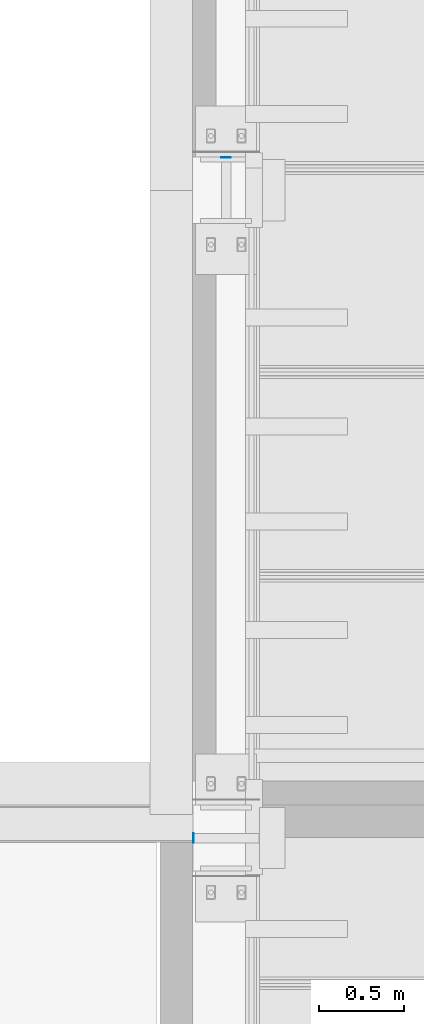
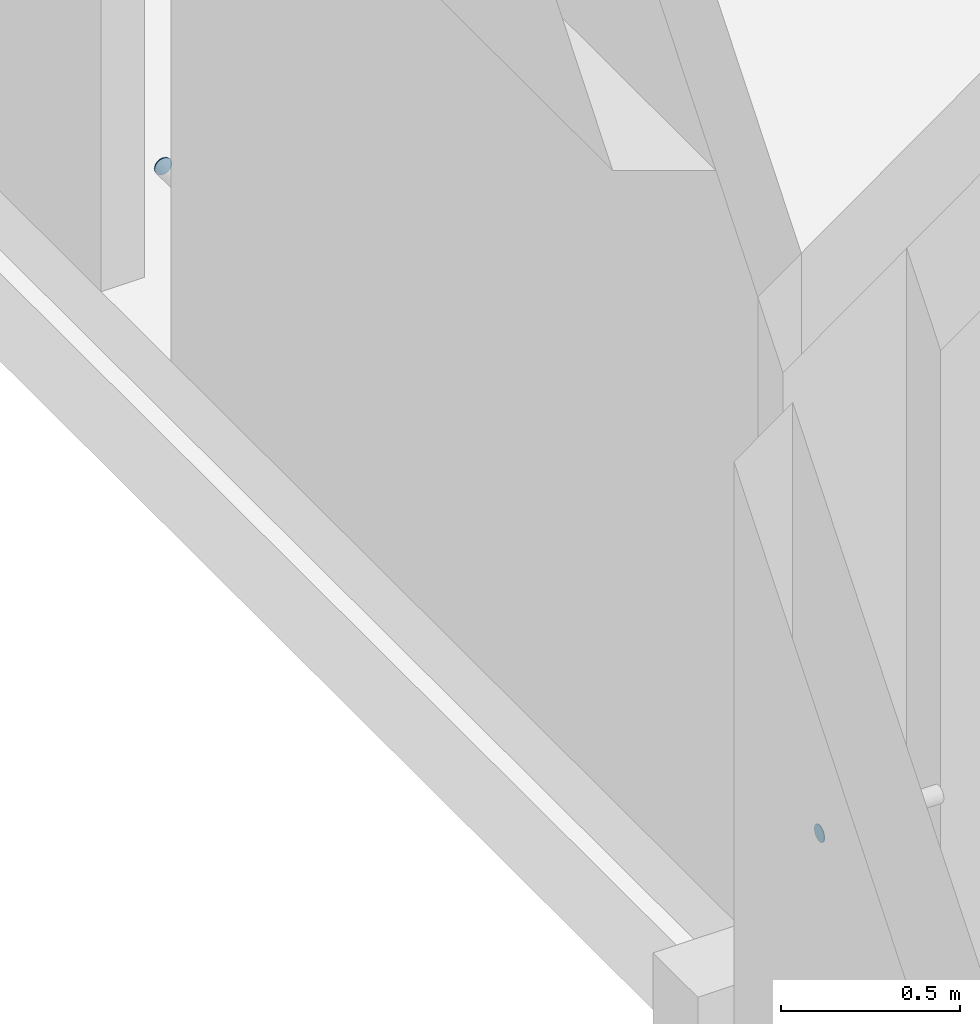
# One storey, part 57 of 230: 2 beams.
"""IFC4X3_ADD2 building model written with IfcOpenShell, lengths in millimetres."""

from ifc_helpers import new_model, si_unit, direction, frame, origin_with_axes, place, context, subcontext, project, spatial, indexed_curve, outline, extrude, material, element, save


model = new_model("IFC4X3_ADD2")

# Units and contexts
model_context = context("Model", 3, precision=1e-05, world=origin_with_axes(), true_north=direction((0.0, 1.0)))
body_context = subcontext(model_context, "Body", "Model", "MODEL_VIEW")
ifc_project = project(units=[si_unit("LENGTHUNIT", "METRE", prefix="MILLI"), si_unit("AREAUNIT", "SQUARE_METRE"), si_unit("VOLUMEUNIT", "CUBIC_METRE"), si_unit("PLANEANGLEUNIT", "RADIAN"), si_unit("TIMEUNIT", "SECOND"), si_unit("MASSUNIT", "GRAM")], contexts=[model_context])

# Site, building, storey
site_placement = place(None, origin_with_axes())
site = spatial("IfcSite", under=ifc_project, at=site_placement, Name="Site", CompositionType="ELEMENT")
building_placement = place(site_placement, origin_with_axes())
building = spatial("IfcBuilding", under=site, at=building_placement, Name="IFC Building Story")
storey_placement = place(building_placement, origin_with_axes())
storey = spatial("IfcBuildingStorey", under=building, at=storey_placement, Name="ETAGE 00 (0)", Elevation=0.0)

# Beams
ifc_material = material(Name="STEEL/Accessory 22919")
beam_1_placement = place(storey_placement, frame((33401.1883991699, 21814.9996109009, 860.0000000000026), z_axis=(0.0, -1.0, 0.0), x_axis=(-0.5555702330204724, 0.0, 0.8314696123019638)))
element("IfcBeam", 1, at=beam_1_placement, inside=storey, material=ifc_material, Name="TA4", ObjectType="D56", context=body_context, shape_type="SweptSolid", body=[
    extrude(outline(indexed_curve([(23.28114914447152, 15.55596652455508), (27.46198785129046, 5.462529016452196), (27.46198785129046, -5.462529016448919), (23.28114914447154, -15.55596652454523), (15.55596652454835, -23.28114914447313), (5.462529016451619, -27.46198785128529), (-5.462529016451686, -27.46198785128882), (-15.55596652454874, -23.28114914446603), (-23.2811491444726, -15.55596652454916), (-27.46198785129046, -5.462529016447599), (-27.46198785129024, 5.462529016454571), (-23.28114914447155, 15.55596652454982), (-15.55596652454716, 23.28114914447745), (-5.462529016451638, 27.46198785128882), (5.462529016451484, 27.46198785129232), (15.55596652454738, 23.28114914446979), (23.28114914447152, 15.55596652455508)])), origin_with_axes(), (0.0, 0.0, 1.0), 3.000000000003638),
])
beam_2_placement = place(storey_placement, frame((33209.18799999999, 17804.99999999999, 1080.0), z_axis=(-1.0, 0.0, 0.0), x_axis=(0.0, 0.1950903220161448, 0.9807852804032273)))
element("IfcBeam", 2, at=beam_2_placement, inside=storey, material=ifc_material, Name="TA4", ObjectType="D56", context=body_context, shape_type="SweptSolid", body=[
    extrude(outline(indexed_curve([(23.28114914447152, 15.55596652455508), (27.46198785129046, 5.462529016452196), (27.46198785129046, -5.462529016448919), (23.28114914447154, -15.55596652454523), (15.55596652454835, -23.28114914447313), (5.462529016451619, -27.46198785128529), (-5.462529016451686, -27.46198785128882), (-15.55596652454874, -23.28114914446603), (-23.2811491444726, -15.55596652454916), (-27.46198785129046, -5.462529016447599), (-27.46198785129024, 5.462529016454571), (-23.28114914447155, 15.55596652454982), (-15.55596652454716, 23.28114914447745), (-5.462529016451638, 27.46198785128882), (5.462529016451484, 27.46198785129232), (15.55596652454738, 23.28114914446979), (23.28114914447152, 15.55596652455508)])), origin_with_axes(), (0.0, 0.0, 1.0), 2.999999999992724),
])

save(model, "model.ifc")
